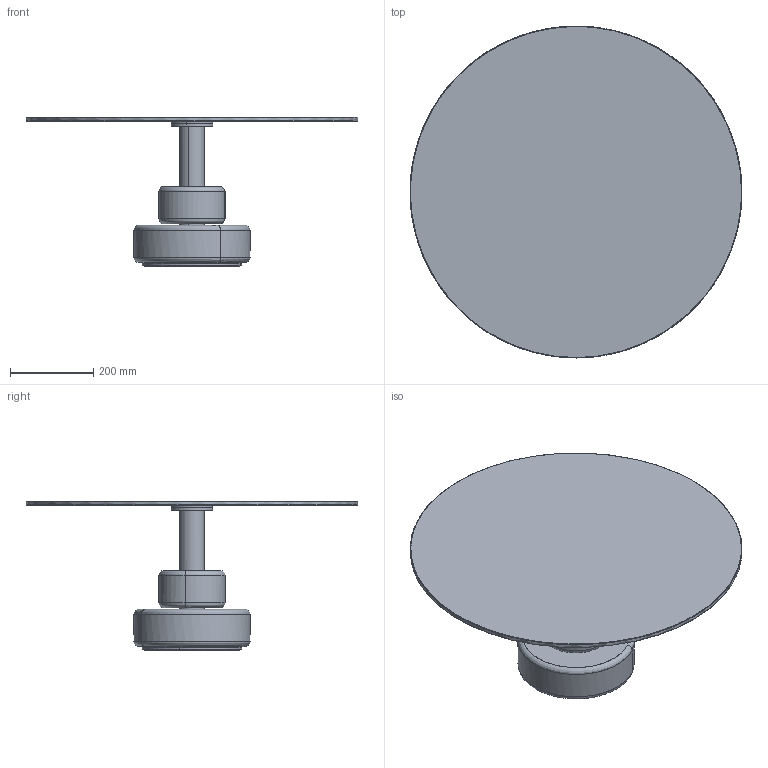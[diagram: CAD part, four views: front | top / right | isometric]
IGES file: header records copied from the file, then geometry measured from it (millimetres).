
Global section: file name: \\FS\Gruppi\Tec-R&D-Ope\BLOCCHI 2D-3D\_ACERBIS\MENHIR\Top Vetro\3D\Menhir top vetro D.800.igs; native system: Rhinoceros ( Feb 27 2023 ); preprocessor: Trout Lake IGES 012 Feb 27 2023; date: 230525.070040; units: millimetre
Bounding box: 799.67 x 799.98 x 361 mm (x, y, z)
Surface area: 1665925.6 mm2 (no closed solid volume)
Topology: 0 solids, 0 shells, 162 faces, 758 edges, 754 vertices
Faces by surface type: bspline 162
